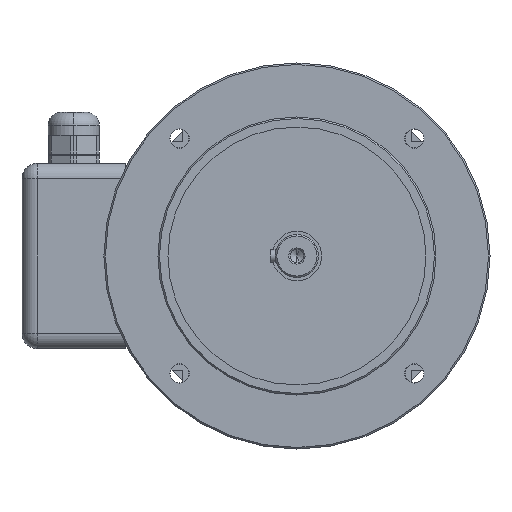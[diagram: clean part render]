
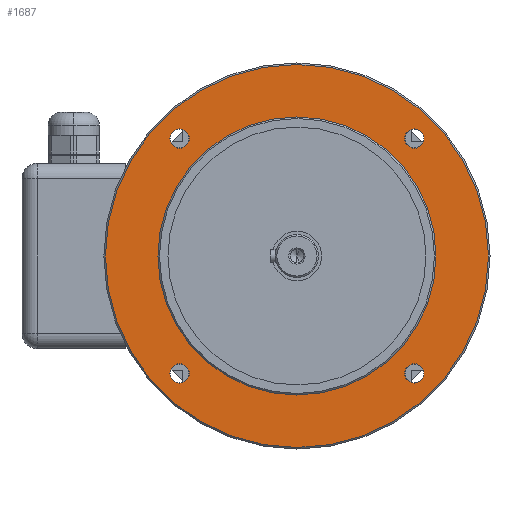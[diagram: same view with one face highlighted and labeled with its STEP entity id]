
A CAD part, left-side view. The second image highlights one B-rep face of the part: STEP entity #1687.
In plain terms, the highlighted planar face has unit normal (-1, 0, 0).
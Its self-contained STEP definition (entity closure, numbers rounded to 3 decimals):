
#36 = ORIENTED_EDGE ( 'NONE', *, *, #9733, .F. ) ;
#321 = CIRCLE ( 'NONE', #9053, 6.25 ) ;
#346 = AXIS2_PLACEMENT_3D ( 'NONE', #7195, #3588, #9346 ) ;
#413 = AXIS2_PLACEMENT_3D ( 'NONE', #12034, #9816, #10641 ) ;
#473 = CIRCLE ( 'NONE', #2357, 124. ) ;
#520 = EDGE_CURVE ( 'NONE', #1064, #5779, #8140, .T. ) ;
#775 = FACE_BOUND ( 'NONE', #7376, .T. ) ;
#950 = EDGE_CURVE ( 'NONE', #7623, #5923, #473, .T. ) ;
#1064 = VERTEX_POINT ( 'NONE', #8435 ) ;
#1200 = CARTESIAN_POINT ( 'NONE',  ( 0., 0., 0. ) ) ;
#1212 = DIRECTION ( 'NONE',  ( -1., 0., 0. ) ) ;
#1222 = DIRECTION ( 'NONE',  ( -1., 0., 0. ) ) ;
#1275 = ORIENTED_EDGE ( 'NONE', *, *, #13058, .F. ) ;
#1368 = EDGE_CURVE ( 'NONE', #5779, #1064, #321, .T. ) ;
#1687 = ADVANCED_FACE ( 'NONE', ( #13257, #775, #1963, #3077, #13117, #8601 ), #9718, .F. ) ;
#1710 = AXIS2_PLACEMENT_3D ( 'NONE', #14380, #4255, #13266 ) ;
#1744 = DIRECTION ( 'NONE',  ( 0., 0., 1. ) ) ;
#1759 = CARTESIAN_POINT ( 'NONE',  ( 0., 0., -90. ) ) ;
#1963 = FACE_BOUND ( 'NONE', #11565, .T. ) ;
#2028 = CIRCLE ( 'NONE', #13579, 6.25 ) ;
#2066 = DIRECTION ( 'NONE',  ( 0., 0., 1. ) ) ;
#2355 = CARTESIAN_POINT ( 'NONE',  ( 0., -76.014, 76.014 ) ) ;
#2357 = AXIS2_PLACEMENT_3D ( 'NONE', #1200, #3572, #10221 ) ;
#2431 = CARTESIAN_POINT ( 'NONE',  ( 0., -76.014, -76.014 ) ) ;
#2610 = EDGE_LOOP ( 'NONE', ( #7397, #6949 ) ) ;
#3077 = FACE_BOUND ( 'NONE', #9271, .T. ) ;
#3422 = DIRECTION ( 'NONE',  ( 0., 0., 1. ) ) ;
#3423 = CIRCLE ( 'NONE', #8600, 6.25 ) ;
#3523 = CARTESIAN_POINT ( 'NONE',  ( 0., 76.014, -76.014 ) ) ;
#3572 = DIRECTION ( 'NONE',  ( -1., 0., 0. ) ) ;
#3580 = ORIENTED_EDGE ( 'NONE', *, *, #11881, .F. ) ;
#3588 = DIRECTION ( 'NONE',  ( -1., 0., 0. ) ) ;
#3838 = DIRECTION ( 'NONE',  ( -1., 0., 0. ) ) ;
#3996 = EDGE_CURVE ( 'NONE', #9651, #6770, #12435, .T. ) ;
#4036 = DIRECTION ( 'NONE',  ( 1., 0., 0. ) ) ;
#4082 = ORIENTED_EDGE ( 'NONE', *, *, #1368, .F. ) ;
#4126 = CIRCLE ( 'NONE', #346, 6.25 ) ;
#4255 = DIRECTION ( 'NONE',  ( -1., 0., 0. ) ) ;
#4482 = EDGE_CURVE ( 'NONE', #5923, #7623, #8060, .T. ) ;
#4525 = CARTESIAN_POINT ( 'NONE',  ( 0., 76.014, 76.014 ) ) ;
#4640 = DIRECTION ( 'NONE',  ( -1., 0., 0. ) ) ;
#4727 = VERTEX_POINT ( 'NONE', #7457 ) ;
#4789 = DIRECTION ( 'NONE',  ( 0., 0., 1. ) ) ;
#4855 = CARTESIAN_POINT ( 'NONE',  ( 0., 0., 90. ) ) ;
#4896 = CARTESIAN_POINT ( 'NONE',  ( 0., 0., -124. ) ) ;
#4987 = VERTEX_POINT ( 'NONE', #8983 ) ;
#5358 = CIRCLE ( 'NONE', #7944, 6.25 ) ;
#5393 = VERTEX_POINT ( 'NONE', #10106 ) ;
#5485 = EDGE_LOOP ( 'NONE', ( #6873, #11463 ) ) ;
#5584 = VERTEX_POINT ( 'NONE', #4855 ) ;
#5758 = CIRCLE ( 'NONE', #10004, 90. ) ;
#5779 = VERTEX_POINT ( 'NONE', #14375 ) ;
#5846 = VERTEX_POINT ( 'NONE', #12366 ) ;
#5923 = VERTEX_POINT ( 'NONE', #11043 ) ;
#6241 = CARTESIAN_POINT ( 'NONE',  ( 0., 90., 0. ) ) ;
#6481 = DIRECTION ( 'NONE',  ( -1., 0., 0. ) ) ;
#6513 = DIRECTION ( 'NONE',  ( -1., 0., 0. ) ) ;
#6770 = VERTEX_POINT ( 'NONE', #10619 ) ;
#6873 = ORIENTED_EDGE ( 'NONE', *, *, #950, .T. ) ;
#6949 = ORIENTED_EDGE ( 'NONE', *, *, #7086, .F. ) ;
#7086 = EDGE_CURVE ( 'NONE', #10340, #5584, #12163, .T. ) ;
#7195 = CARTESIAN_POINT ( 'NONE',  ( 0., -76.014, 76.014 ) ) ;
#7253 = EDGE_CURVE ( 'NONE', #5846, #4727, #4126, .T. ) ;
#7376 = EDGE_LOOP ( 'NONE', ( #3580, #10364 ) ) ;
#7397 = ORIENTED_EDGE ( 'NONE', *, *, #9573, .F. ) ;
#7457 = CARTESIAN_POINT ( 'NONE',  ( 0., -76.014, 69.764 ) ) ;
#7478 = CARTESIAN_POINT ( 'NONE',  ( 0., -76.014, -82.264 ) ) ;
#7623 = VERTEX_POINT ( 'NONE', #4896 ) ;
#7944 = AXIS2_PLACEMENT_3D ( 'NONE', #2355, #4640, #4789 ) ;
#8060 = CIRCLE ( 'NONE', #1710, 124. ) ;
#8140 = CIRCLE ( 'NONE', #13106, 6.25 ) ;
#8435 = CARTESIAN_POINT ( 'NONE',  ( 0., 76.014, -82.264 ) ) ;
#8600 = AXIS2_PLACEMENT_3D ( 'NONE', #4525, #10067, #3422 ) ;
#8601 = FACE_BOUND ( 'NONE', #2610, .T. ) ;
#8983 = CARTESIAN_POINT ( 'NONE',  ( 0., 76.014, 82.264 ) ) ;
#9053 = AXIS2_PLACEMENT_3D ( 'NONE', #10683, #11715, #1744 ) ;
#9271 = EDGE_LOOP ( 'NONE', ( #14598, #36 ) ) ;
#9346 = DIRECTION ( 'NONE',  ( 0., 0., 1. ) ) ;
#9573 = EDGE_CURVE ( 'NONE', #5584, #10340, #5758, .T. ) ;
#9651 = VERTEX_POINT ( 'NONE', #7478 ) ;
#9718 = PLANE ( 'NONE',  #12767 ) ;
#9733 = EDGE_CURVE ( 'NONE', #5393, #4987, #3423, .T. ) ;
#9813 = CIRCLE ( 'NONE', #12882, 6.25 ) ;
#9816 = DIRECTION ( 'NONE',  ( -1., 0., 0. ) ) ;
#9833 = EDGE_LOOP ( 'NONE', ( #4082, #10671 ) ) ;
#10004 = AXIS2_PLACEMENT_3D ( 'NONE', #13246, #6513, #10825 ) ;
#10067 = DIRECTION ( 'NONE',  ( -1., 0., 0. ) ) ;
#10106 = CARTESIAN_POINT ( 'NONE',  ( 0., 76.014, 69.764 ) ) ;
#10221 = DIRECTION ( 'NONE',  ( 0., 0., -1. ) ) ;
#10229 = DIRECTION ( 'NONE',  ( 0., 0., 1. ) ) ;
#10340 = VERTEX_POINT ( 'NONE', #1759 ) ;
#10364 = ORIENTED_EDGE ( 'NONE', *, *, #3996, .F. ) ;
#10518 = AXIS2_PLACEMENT_3D ( 'NONE', #11189, #1212, #10229 ) ;
#10558 = DIRECTION ( 'NONE',  ( 0., 0., 1. ) ) ;
#10619 = CARTESIAN_POINT ( 'NONE',  ( 0., -76.014, -69.764 ) ) ;
#10641 = DIRECTION ( 'NONE',  ( 0., 0., 1. ) ) ;
#10671 = ORIENTED_EDGE ( 'NONE', *, *, #520, .F. ) ;
#10683 = CARTESIAN_POINT ( 'NONE',  ( 0., 76.014, -76.014 ) ) ;
#10825 = DIRECTION ( 'NONE',  ( 0., 0., 1. ) ) ;
#11043 = CARTESIAN_POINT ( 'NONE',  ( 0., 0., 124. ) ) ;
#11068 = CARTESIAN_POINT ( 'NONE',  ( 0., 76.014, 76.014 ) ) ;
#11189 = CARTESIAN_POINT ( 'NONE',  ( 0., 0., 0. ) ) ;
#11463 = ORIENTED_EDGE ( 'NONE', *, *, #4482, .T. ) ;
#11565 = EDGE_LOOP ( 'NONE', ( #12230, #1275 ) ) ;
#11715 = DIRECTION ( 'NONE',  ( -1., 0., 0. ) ) ;
#11878 = EDGE_CURVE ( 'NONE', #4987, #5393, #9813, .T. ) ;
#11881 = EDGE_CURVE ( 'NONE', #6770, #9651, #2028, .T. ) ;
#12034 = CARTESIAN_POINT ( 'NONE',  ( 0., -76.014, -76.014 ) ) ;
#12163 = CIRCLE ( 'NONE', #10518, 90. ) ;
#12230 = ORIENTED_EDGE ( 'NONE', *, *, #7253, .F. ) ;
#12366 = CARTESIAN_POINT ( 'NONE',  ( 0., -76.014, 82.264 ) ) ;
#12378 = DIRECTION ( 'NONE',  ( 0., 0., 1. ) ) ;
#12435 = CIRCLE ( 'NONE', #413, 6.25 ) ;
#12767 = AXIS2_PLACEMENT_3D ( 'NONE', #6241, #4036, #14231 ) ;
#12882 = AXIS2_PLACEMENT_3D ( 'NONE', #11068, #6481, #2066 ) ;
#13058 = EDGE_CURVE ( 'NONE', #4727, #5846, #5358, .T. ) ;
#13106 = AXIS2_PLACEMENT_3D ( 'NONE', #3523, #1222, #12378 ) ;
#13117 = FACE_BOUND ( 'NONE', #9833, .T. ) ;
#13246 = CARTESIAN_POINT ( 'NONE',  ( 0., 0., 0. ) ) ;
#13257 = FACE_OUTER_BOUND ( 'NONE', #5485, .T. ) ;
#13266 = DIRECTION ( 'NONE',  ( 0., 0., -1. ) ) ;
#13579 = AXIS2_PLACEMENT_3D ( 'NONE', #2431, #3838, #10558 ) ;
#14231 = DIRECTION ( 'NONE',  ( 0., 0., -1. ) ) ;
#14375 = CARTESIAN_POINT ( 'NONE',  ( 0., 76.014, -69.764 ) ) ;
#14380 = CARTESIAN_POINT ( 'NONE',  ( 0., 0., 0. ) ) ;
#14598 = ORIENTED_EDGE ( 'NONE', *, *, #11878, .F. ) ;
